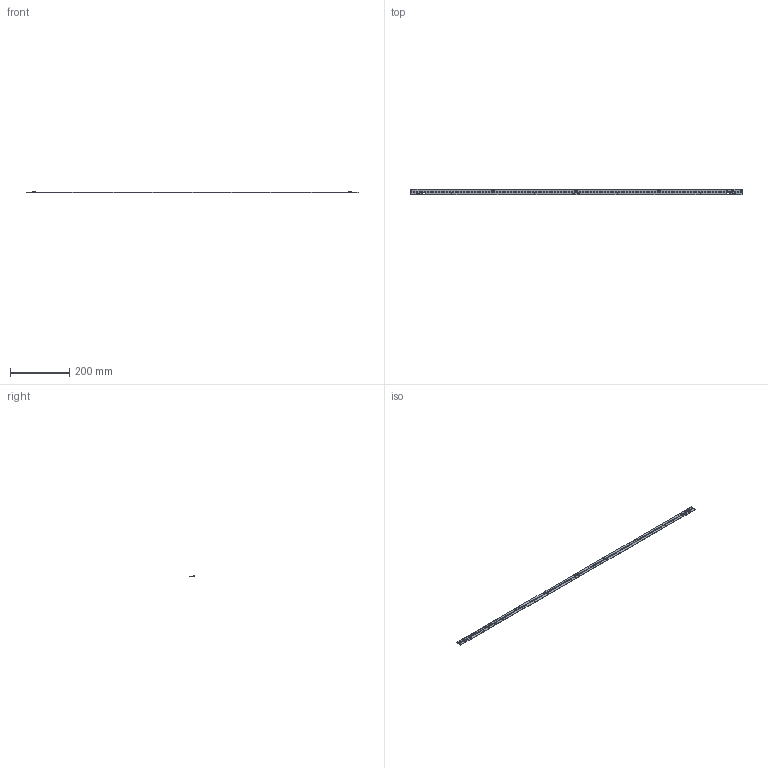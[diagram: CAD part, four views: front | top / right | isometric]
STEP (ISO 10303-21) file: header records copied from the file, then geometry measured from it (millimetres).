
FILE_DESCRIPTION(('Creo Elements/Direct Modeling STEP Export'),'2;1');
FILE_NAME('3D-Model_WU-M-708-STC.stp','2023-03-08T11:52:38',(''),(''),'PTC Creo Elements/Direct Modeling STEP processor for AP214 (Solid Model)','PTC Creo Elements/Direct Modeling 19.0E 27-Jun-2016 (C) Parametric Technology GmbH','');
FILE_SCHEMA(('AUTOMOTIVE_DESIGN { 1 0 10303 214 1 1 1 1 }'));
Length unit declared in the file: millimetre
Products named in the file (385): p1; Con0101.1; Con0101; P1_PRT.PRT; LED-DIODA_-1295330_PRT.PRT; LED-DIODA_-1329870_ASM.ASM; LED-DIODA__10_ASM.ASM; LED-DIODA__100_ASM.ASM; LED-DIODA__101_ASM.ASM; LED-DIODA__102_ASM.ASM; LED-DIODA__103_ASM.ASM; LED-DIODA__104_ASM.ASM; LED-DIODA__105_ASM.ASM; LED-DIODA__106_ASM.ASM; LED-DIODA__107_ASM.ASM; LED-DIODA__108_ASM.ASM; LED-DIODA__109_ASM.ASM; LED-DIODA__11_ASM.ASM; LED-DIODA__110_ASM.ASM; LED-DIODA__111_ASM.ASM; LED-DIODA__112_ASM.ASM; LED-DIODA__113_ASM.ASM; LED-DIODA__114_ASM.ASM; LED-DIODA__115_ASM.ASM; LED-DIODA__116_ASM.ASM; LED-DIODA__117_ASM.ASM; LED-DIODA__118_ASM.ASM; LED-DIODA__119_ASM.ASM; LED-DIODA__12_ASM.ASM; LED-DIODA__120_ASM.ASM; LED-DIODA__13_ASM.ASM; LED-DIODA__14_ASM.ASM; LED-DIODA__15_ASM.ASM; LED-DIODA__16_ASM.ASM; LED-DIODA__17_ASM.ASM; LED-DIODA__18_ASM.ASM; LED-DIODA__19_ASM.ASM; LED-DIODA__2_ASM.ASM; LED-DIODA__20_ASM.ASM; LED-DIODA__21_ASM.ASM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
Assembly tree (500 placements, depth 4):
  p1
  Con0101.1
    Con0101.1
  Con0101
    Con0101
  3D-MODEL_WU-M-708-TC.stp
    3D-MODEL_WU-M-708-TC_STP.ASM
      PLATE_BASE_WU-M-708_99-7330_ASM.ASM
        PLATE_BASE_WU-M-708_99-6830_PRT.PRT
      PLATE_BASE_WU-M-708_98-12430_AS.ASM
        PLATE_BASE_WU-M-708_98-11980_PR.PRT
      PLATE_BASE_WU-M-708_97-17920_AS.ASM
        PLATE_BASE_WU-M-708_97-17460_PR.PRT
      PLATE_BASE_WU-M-708_96-23330_AS.ASM
        PLATE_BASE_WU-M-708_96-22870_PR.PRT
      PLATE_BASE_WU-M-708_95-35950_AS.ASM
        PLATE_BASE_WU-M-708_95-35320_PR.PRT
      PLATE_BASE_WU-M-708_94-46050_AS.ASM
        PLATE_BASE_WU-M-708_94-45480_PR.PRT
      PLATE_BASE_WU-M-708_93-57400_AS.ASM
        PLATE_BASE_WU-M-708_93-56800_PR.PRT
      PLATE_BASE_WU-M-708_92-66250_AS.ASM
        PLATE_BASE_WU-M-708_92-65710_PR.PRT
      PLATE_BASE_WU-M-708_91-76350_AS.ASM
        PLATE_BASE_WU-M-708_91-75780_PR.PRT
      PLATE_BASE_WU-M-708_90-82680_AS.ASM
        PLATE_BASE_WU-M-708_90-82200_PR.PRT
      PLATE_BASE_WU-M-708_9-95300_ASM.ASM
        PLATE_BASE_WU-M-708_9-94670_PRT.PRT
      PLATE_BASE_WU-M-708_89-101120_A.ASM
        PLATE_BASE_WU-M-708_89-100650_P.PRT
      PLATE_BASE_WU-M-708_88-120060_A.ASM
        PLATE_BASE_WU-M-708_88-119270_P.PRT
      PLATE_BASE_WU-M-708_87-127250_A.ASM
        PLATE_BASE_WU-M-708_87-126750_P.PRT
      PLATE_BASE_WU-M-708_86-138210_A.ASM
        PLATE_BASE_WU-M-708_86-137620_P.PRT
      PLATE_BASE_WU-M-708_85-144540_A.ASM
        PLATE_BASE_WU-M-708_85-144060_P.PRT
      PLATE_BASE_WU-M-708_84-152120_A.ASM
        PLATE_BASE_WU-M-708_84-151610_P.PRT
      PLATE_BASE_WU-M-708_83-156380_A.ASM
        PLATE_BASE_WU-M-708_83-155950_P.PRT
      PLATE_BASE_WU-M-708_82-163960_A.ASM
        PLATE_BASE_WU-M-708_82-163450_P.PRT
      PLATE_BASE_WU-M-708_81-169780_A.ASM
        PLATE_BASE_WU-M-708_81-169310_P.PRT
      PLATE_BASE_WU-M-708_80-175270_A.ASM
        PLATE_BASE_WU-M-708_80-174810_P.PRT
      PLATE_BASE_WU-M-708_8-190350_AS.ASM
        PLATE_BASE_WU-M-708_8-189660_PR.PRT
      PLATE_BASE_WU-M-708_79-197500_A.ASM
        PLATE_BASE_WU-M-708_79-197000_P.PRT
      PLATE_BASE_WU-M-708_78-201740_A.ASM
        PLATE_BASE_WU-M-708_78-201310_P.PRT
      PLATE_BASE_WU-M-708_77-212680_A.ASM
        PLATE_BASE_WU-M-708_77-212090_P.PRT
      PLATE_BASE_WU-M-708_76-226530_A.ASM
        PLATE_BASE_WU-M-708_76-225870_P.PRT
      PLATE_BASE_WU-M-708_75-239110_A.ASM
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Bounding box: 1119 x 20 x 3.7 mm (x, y, z)
Volume: 22793.7 mm3; surface area: 50342.1 mm2
Topology: 250 solids, 250 shells, 12546 faces, 34594 edges, 22898 vertices
Faces by surface type: plane 9701, cylinder 2845
Entity records: 143444 total; most frequent: CARTESIAN_POINT 19594, DIRECTION 19024, ORIENTED_EDGE 18732, EDGE_CURVE 9366, VECTOR 7432, LINE 7432, VERTEX_POINT 6238, AXIS2_PLACEMENT_3D 5796
